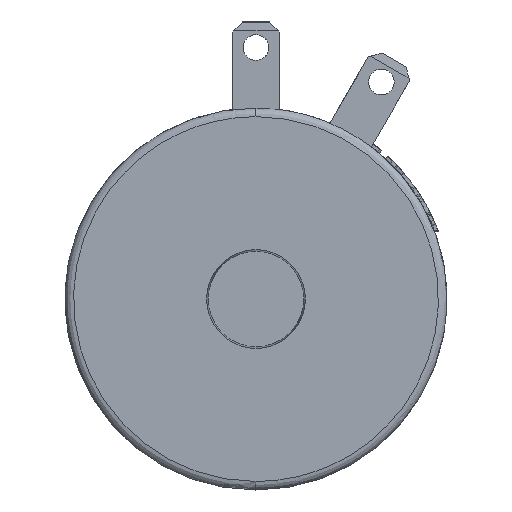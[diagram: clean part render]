
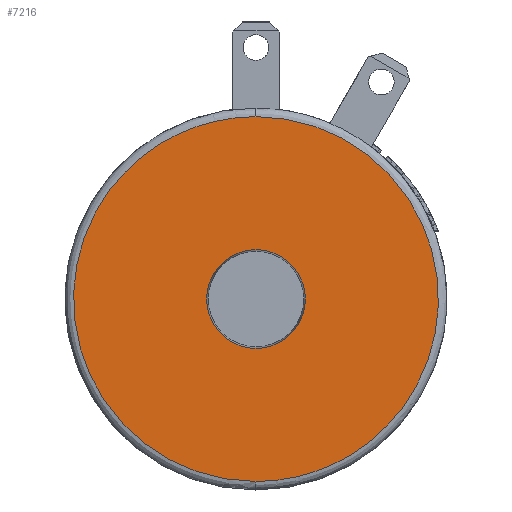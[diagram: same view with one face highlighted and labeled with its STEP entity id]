
A CAD part, front view. The second image highlights one B-rep face of the part: STEP entity #7216.
In plain terms, the highlighted planar face has unit normal (0, -1, 0).
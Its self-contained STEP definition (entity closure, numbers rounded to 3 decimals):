
#121 = EDGE_CURVE ( 'NONE', #782, #782, #15636, .T. ) ;
#782 = VERTEX_POINT ( 'NONE', #9987 ) ;
#886 = ORIENTED_EDGE ( 'NONE', *, *, #2689, .F. ) ;
#1438 =( BOUNDED_CURVE ( )  B_SPLINE_CURVE ( 3, ( #11502, #24526, #26706, #26519 ),
 .UNSPECIFIED., .F., .F. ) 
 B_SPLINE_CURVE_WITH_KNOTS ( ( 4, 4 ),
 ( 0., 1. ),
 .UNSPECIFIED. ) 
 CURVE ( )  GEOMETRIC_REPRESENTATION_ITEM ( )  RATIONAL_B_SPLINE_CURVE ( ( 0.957, 0.319, 0.319, 0.957 ) ) 
 REPRESENTATION_ITEM ( '' )  );
#2613 = ORIENTED_EDGE ( 'NONE', *, *, #121, .F. ) ;
#2689 = EDGE_CURVE ( 'NONE', #21485, #21872, #1438, .T. ) ;
#2783 = CARTESIAN_POINT ( 'NONE',  ( 0., -7.02, 0. ) ) ;
#4269 = DIRECTION ( 'NONE',  ( 0., 0., -1. ) ) ;
#4365 = CARTESIAN_POINT ( 'NONE',  ( -0.717, -7.02, 7.075 ) ) ;
#4478 = FACE_OUTER_BOUND ( 'NONE', #6261, .T. ) ;
#5090 = CARTESIAN_POINT ( 'NONE',  ( 21.4, -7.02, 10.7 ) ) ;
#6261 = EDGE_LOOP ( 'NONE', ( #13844, #886 ) ) ;
#7216 = ADVANCED_FACE ( 'NONE', ( #4478, #22121 ), #10892, .F. ) ;
#9618 = CARTESIAN_POINT ( 'NONE',  ( 0., -7.02, -10.7 ) ) ;
#9987 = CARTESIAN_POINT ( 'NONE',  ( 0., -7.02, -2.9 ) ) ;
#10892 = PLANE ( 'NONE',  #18647 ) ;
#11502 = CARTESIAN_POINT ( 'NONE',  ( 0., -7.02, -10.7 ) ) ;
#11523 = DIRECTION ( 'NONE',  ( 0., 0., -1. ) ) ;
#12275 =( BOUNDED_CURVE ( )  B_SPLINE_CURVE ( 3, ( #13828, #5090, #22256, #24547 ),
 .UNSPECIFIED., .F., .T. ) 
 B_SPLINE_CURVE_WITH_KNOTS ( ( 4, 4 ),
 ( 0., 1. ),
 .UNSPECIFIED. ) 
 CURVE ( )  GEOMETRIC_REPRESENTATION_ITEM ( )  RATIONAL_B_SPLINE_CURVE ( ( 0.957, 0.319, 0.319, 0.957 ) ) 
 REPRESENTATION_ITEM ( '' )  );
#13663 = EDGE_CURVE ( 'NONE', #21872, #21485, #12275, .T. ) ;
#13828 = CARTESIAN_POINT ( 'NONE',  ( 0., -7.02, 10.7 ) ) ;
#13844 = ORIENTED_EDGE ( 'NONE', *, *, #13663, .F. ) ;
#15636 = CIRCLE ( 'NONE', #27697, 2.9 ) ;
#18647 = AXIS2_PLACEMENT_3D ( 'NONE', #4365, #23828, #4269 ) ;
#21485 = VERTEX_POINT ( 'NONE', #9618 ) ;
#21872 = VERTEX_POINT ( 'NONE', #24415 ) ;
#22121 = FACE_BOUND ( 'NONE', #25021, .T. ) ;
#22256 = CARTESIAN_POINT ( 'NONE',  ( 21.4, -7.02, -10.7 ) ) ;
#22450 = DIRECTION ( 'NONE',  ( 0., -1., 0. ) ) ;
#23828 = DIRECTION ( 'NONE',  ( 0., 1., 0. ) ) ;
#24415 = CARTESIAN_POINT ( 'NONE',  ( 0., -7.02, 10.7 ) ) ;
#24526 = CARTESIAN_POINT ( 'NONE',  ( -21.4, -7.02, -10.7 ) ) ;
#24547 = CARTESIAN_POINT ( 'NONE',  ( 0., -7.02, -10.7 ) ) ;
#25021 = EDGE_LOOP ( 'NONE', ( #2613 ) ) ;
#26519 = CARTESIAN_POINT ( 'NONE',  ( 0., -7.02, 10.7 ) ) ;
#26706 = CARTESIAN_POINT ( 'NONE',  ( -21.4, -7.02, 10.7 ) ) ;
#27697 = AXIS2_PLACEMENT_3D ( 'NONE', #2783, #22450, #11523 ) ;
